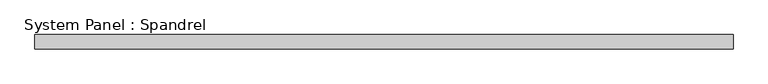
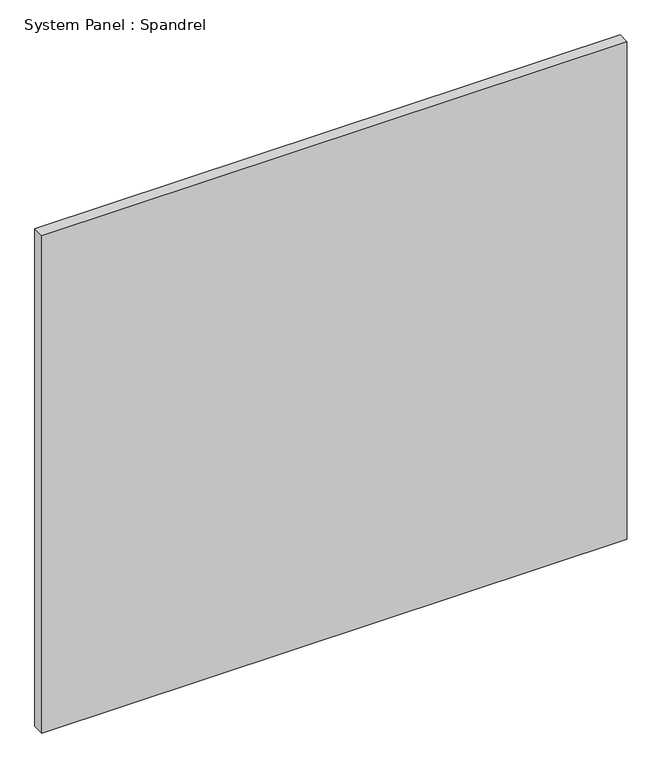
"""IFC4 building model written with IfcOpenShell, lengths in millimetres: plate geometry, System Panel : Spandrel."""

from ifc_helpers import new_model, si_unit, origin, origin_with_axes, place, context, project, spatial, polyline, outline, extrude, source, transform, mapped, element, save


def system_panel_spandrel_99afe9c9(model_context):
    return source(origin(), model_context, "Body", "SweptSolid", [
        extrude(outline(polyline([(612.5000001, -25.0), (-612.5000001, -25.0), (-612.5000001, 0.0), (612.5000001, 0.0), (612.5000001, -25.0)])), origin_with_axes(), (0.0, 0.0, 1.0), 1100.0),
    ])


if __name__ == "__main__":
    model = new_model("IFC4")
    model_context = context("Model", 3, world=origin())
    ifc_project = project(units=[si_unit("LENGTHUNIT", "METRE", prefix="MILLI")], contexts=[model_context])
    site = spatial("IfcSite", under=ifc_project)
    building = spatial("IfcBuilding", under=site)
    placement = place(None, origin())
    system_panel_spandrel_shape = system_panel_spandrel_99afe9c9(model_context)
    element("IfcPlate", 1, ObjectType="System Panel : Spandrel", at=placement, inside=building, context=model_context, shape_type="MappedRepresentation", body=[
        mapped(system_panel_spandrel_shape, transform((0.0, 0.0, 0.0), x_axis=(1.0, 0.0, 0.0), y_axis=(0.0, 1.0, 0.0), z_axis=(0.0, 0.0, 1.0))),
    ])
    save(model, "model.ifc")
